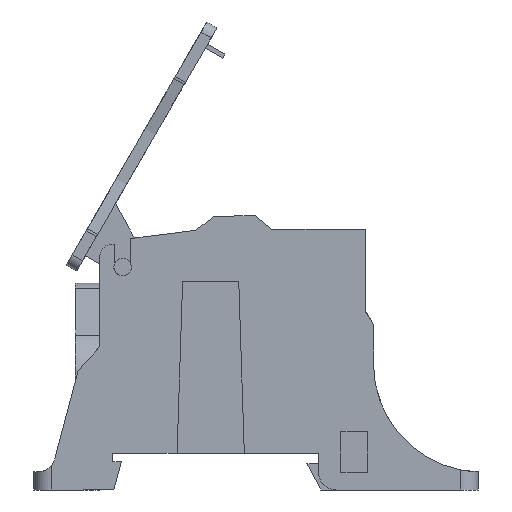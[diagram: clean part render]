
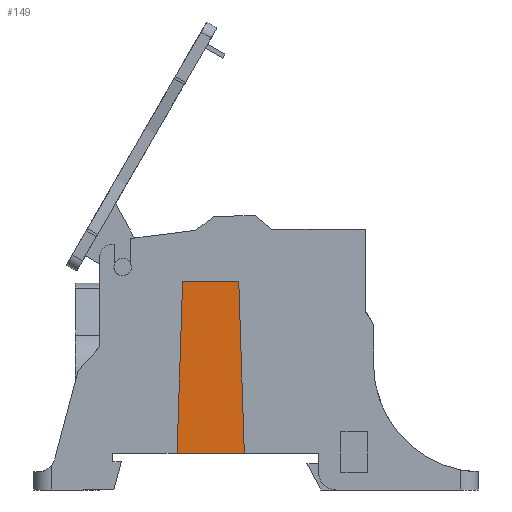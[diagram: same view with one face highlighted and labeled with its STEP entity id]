
A CAD part, front view. The second image highlights one B-rep face of the part: STEP entity #149.
In plain terms, the highlighted planar face has unit normal (0, -1, 0).
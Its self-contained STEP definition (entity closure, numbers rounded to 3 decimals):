
#149 = ADVANCED_FACE ( 'NONE', ( #5816 ), #4715, .T. ) ;
#2135 = EDGE_LOOP ( 'NONE', ( #3190, #3191, #3192, #3193 ) ) ;
#3190 = ORIENTED_EDGE ( 'NONE', *, *, #3601, .T. ) ;
#3191 = ORIENTED_EDGE ( 'NONE', *, *, #3600, .T. ) ;
#3192 = ORIENTED_EDGE ( 'NONE', *, *, #3606, .T. ) ;
#3193 = ORIENTED_EDGE ( 'NONE', *, *, #3582, .T. ) ;
#3582 = EDGE_CURVE ( 'NONE', #12110, #12109, #9912, .T. ) ;
#3600 = EDGE_CURVE ( 'NONE', #12137, #12133, #9933, .T. ) ;
#3601 = EDGE_CURVE ( 'NONE', #12109, #12137, #9939, .T. ) ;
#3606 = EDGE_CURVE ( 'NONE', #12133, #12110, #9946, .T. ) ;
#3894 = AXIS2_PLACEMENT_3D ( 'NONE', #4714, #4720, #4721 ) ;
#4714 = CARTESIAN_POINT ( 'NONE',  ( -2., -16.5, 6.3 ) ) ;
#4715 = PLANE ( 'NONE',  #3894 ) ;
#4720 = DIRECTION ( 'NONE',  ( 0., -1., 0. ) ) ;
#4721 = DIRECTION ( 'NONE',  ( 0., 0., -1. ) ) ;
#5816 = FACE_OUTER_BOUND ( 'NONE', #2135, .T. ) ;
#9226 = CARTESIAN_POINT ( 'NONE',  ( -13.5, -16.5, 6.3 ) ) ;
#9227 = DIRECTION ( 'NONE',  ( 1., 0., 0. ) ) ;
#9254 = CARTESIAN_POINT ( 'NONE',  ( -12.55, -16.5, 35.6 ) ) ;
#9295 = CARTESIAN_POINT ( 'NONE',  ( -2.95, -16.5, 35.6 ) ) ;
#9296 = DIRECTION ( 'NONE',  ( -1., 0., 0. ) ) ;
#9297 = CARTESIAN_POINT ( 'NONE',  ( -2.95, -16.5, 35.6 ) ) ;
#9298 = DIRECTION ( 'NONE',  ( -0.032, 0., 0.999 ) ) ;
#9309 = DIRECTION ( 'NONE',  ( -0.032, 0., -0.999 ) ) ;
#9912 = LINE ( 'NONE', #9226, #9913 ) ;
#9913 = VECTOR ( 'NONE', #9227, 1000. ) ;
#9933 = LINE ( 'NONE', #9295, #9937 ) ;
#9937 = VECTOR ( 'NONE', #9296, 1000. ) ;
#9939 = LINE ( 'NONE', #9297, #9940 ) ;
#9940 = VECTOR ( 'NONE', #9298, 1000. ) ;
#9946 = LINE ( 'NONE', #9254, #9948 ) ;
#9948 = VECTOR ( 'NONE', #9309, 1000. ) ;
#11413 = CARTESIAN_POINT ( 'NONE',  ( -2., -16.5, 6.3 ) ) ;
#11414 = CARTESIAN_POINT ( 'NONE',  ( -13.5, -16.5, 6.3 ) ) ;
#11437 = CARTESIAN_POINT ( 'NONE',  ( -12.55, -16.5, 35.6 ) ) ;
#11441 = CARTESIAN_POINT ( 'NONE',  ( -2.95, -16.5, 35.6 ) ) ;
#12109 = VERTEX_POINT ( 'NONE', #11413 ) ;
#12110 = VERTEX_POINT ( 'NONE', #11414 ) ;
#12133 = VERTEX_POINT ( 'NONE', #11437 ) ;
#12137 = VERTEX_POINT ( 'NONE', #11441 ) ;
